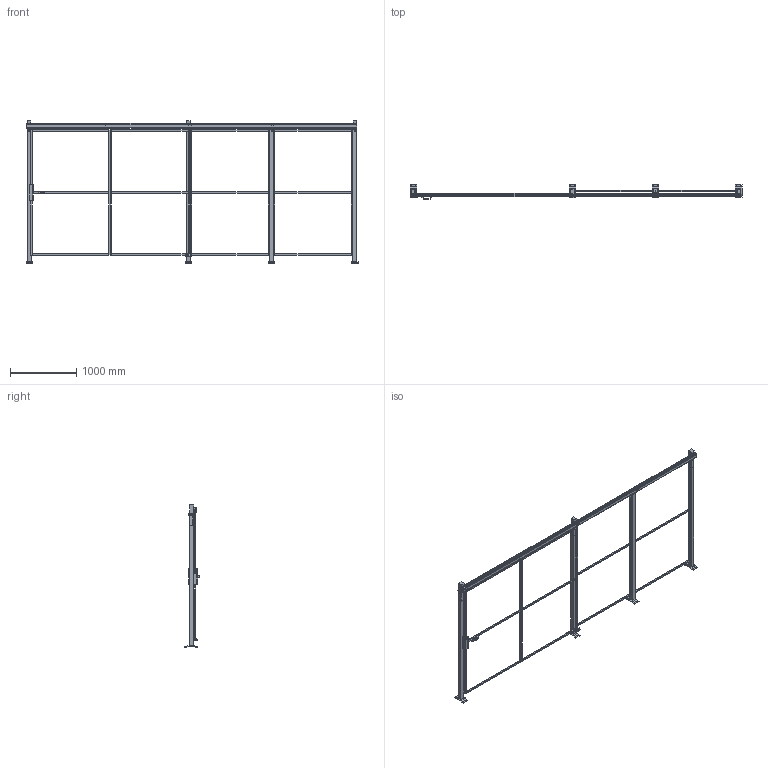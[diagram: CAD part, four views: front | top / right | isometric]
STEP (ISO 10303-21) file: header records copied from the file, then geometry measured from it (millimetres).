
FILE_DESCRIPTION(/* description */ (''),/* implementation_level */ '2;1');
FILE_NAME(/* name */ 'C:\SafeGuarding\ELABORATI\VZOR§POSUVNE_1950x2320_2025-02-13-13-26-20.stp',/* time_stamp */ '2025-02-13T13:26:22+01:00',/* author */ ('admin'),/* organization */ (''),/* preprocessor_version */ 'ST-DEVELOPER v18.1',/* originating_system */ 'AutoCAD Mechanical',/* authorisation */ '');
FILE_SCHEMA (('AUTOMOTIVE_DESIGN { 1 0 10303 214 3 1 1 }'));
Length unit declared in the file: millimetre
Products named in the file (4): Product; R_VFPA.REPE20.12001900; DATI_PORTA; P_VFMA.ME60SDU.2020
Assembly tree (9 placements, depth 2):
  Product
    P_VFMA.ME60SDU.2020  x4
    R_VFPA.REPE20.12001900  x4
    DATI_PORTA
Bounding box: 5030 x 219.95 x 2154 mm (x, y, z)
Volume: 50505299 mm3; surface area: 7140852.5 mm2
Topology: 50 solids, 61 shells, 667 faces, 2230 edges, 2276 vertices
Faces by surface type: plane 619, cylinder 46, sphere 2
Full cylindrical faces by diameter (mm): 11 x16, 12 x2, 15 x4, 40 x4
Entity records: 14306 total; most frequent: CARTESIAN_POINT 2974, DIRECTION 2171, ORIENTED_EDGE 2142, EDGE_CURVE 1120, LINE 1065, VECTOR 1065, VERTEX_POINT 788, AXIS2_PLACEMENT_3D 553
